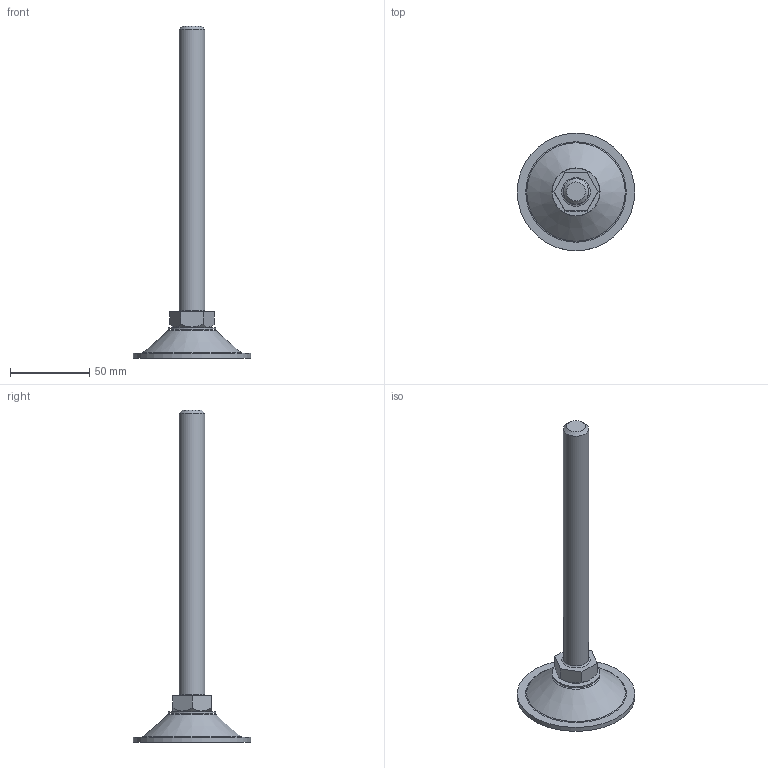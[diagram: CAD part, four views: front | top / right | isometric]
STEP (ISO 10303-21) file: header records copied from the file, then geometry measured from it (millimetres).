
FILE_DESCRIPTION(/* description */ (''),/* implementation_level */ '2;1');
FILE_NAME(/* name */ 'D:\조절자\PF\PF-M16-180L.stp',/* time_stamp */ '2016-03-14T14:55:33+09:00',/* author */ ('GS-DT-1-001'),/* organization */ (''),/* preprocessor_version */ 'ST-DEVELOPER v15.6',/* originating_system */ 'Autodesk Inventor LT ',/* authorisation */ '');
FILE_SCHEMA (('AUTOMOTIVE_DESIGN { 1 0 10303 214 3 1 1 }'));
Length unit declared in the file: millimetre
Products named in the file (1): PF-M16-180L
Bounding box: 74 x 74 x 209 mm (x, y, z)
Volume: 57649 mm3; surface area: 24016.3 mm2
Topology: 4 solids, 4 shells, 37 faces, 70 edges, 45 vertices
Faces by surface type: plane 18, cylinder 8, cone 6, torus 5
Full cylindrical faces by diameter (mm): 6.912 x1, 8 x1, 8.2 x1, 8.3 x1, 16 x2, 30 x1, 74 x1
Entity records: 815 total; most frequent: DIRECTION 144, CARTESIAN_POINT 136, ORIENTED_EDGE 92, AXIS2_PLACEMENT_3D 66, EDGE_LOOP 64, EDGE_CURVE 46, VERTEX_POINT 40, FACE_OUTER_BOUND 37
